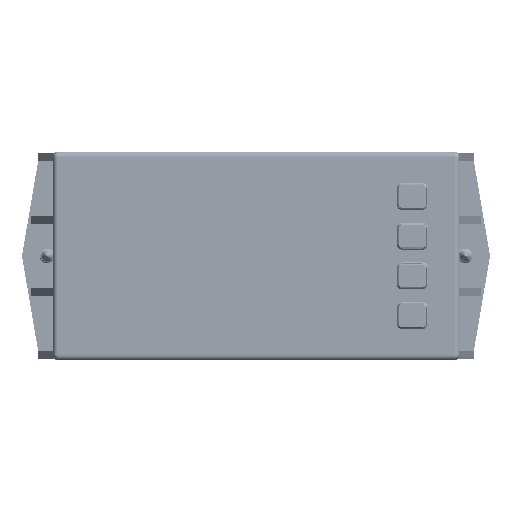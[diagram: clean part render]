
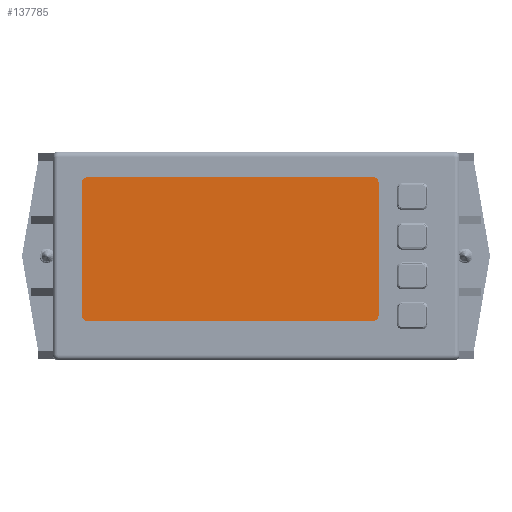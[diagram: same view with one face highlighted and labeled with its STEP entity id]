
A CAD part, front view. The second image highlights one B-rep face of the part: STEP entity #137785.
In plain terms, the highlighted planar face has unit normal (0, -1, 0) as drawn and (0, 0, 1) by its records, which use the part's own axes.
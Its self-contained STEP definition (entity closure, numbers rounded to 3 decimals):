
#4998=CIRCLE('',#145492,1.143);
#4999=CIRCLE('',#145494,1.143);
#5000=CIRCLE('',#145496,1.143);
#5001=CIRCLE('',#145498,1.143);
#32989=ORIENTED_EDGE('',*,*,#50197,.F.);
#32990=ORIENTED_EDGE('',*,*,#50183,.F.);
#32991=ORIENTED_EDGE('',*,*,#50196,.F.);
#32992=ORIENTED_EDGE('',*,*,#50192,.F.);
#32993=ORIENTED_EDGE('',*,*,#50195,.F.);
#32994=ORIENTED_EDGE('',*,*,#50189,.F.);
#32995=ORIENTED_EDGE('',*,*,#50198,.F.);
#32996=ORIENTED_EDGE('',*,*,#50186,.F.);
#50183=EDGE_CURVE('',#60987,#60988,#72860,.T.);
#50186=EDGE_CURVE('',#60989,#60990,#72863,.T.);
#50189=EDGE_CURVE('',#60991,#60992,#72866,.T.);
#50192=EDGE_CURVE('',#60993,#60994,#72869,.T.);
#50195=EDGE_CURVE('',#60992,#60993,#4998,.T.);
#50196=EDGE_CURVE('',#60994,#60987,#4999,.T.);
#50197=EDGE_CURVE('',#60988,#60989,#5000,.T.);
#50198=EDGE_CURVE('',#60990,#60991,#5001,.T.);
#60987=VERTEX_POINT('',#223853);
#60988=VERTEX_POINT('',#223854);
#60989=VERTEX_POINT('',#223859);
#60990=VERTEX_POINT('',#223860);
#60991=VERTEX_POINT('',#223865);
#60992=VERTEX_POINT('',#223866);
#60993=VERTEX_POINT('',#223871);
#60994=VERTEX_POINT('',#223872);
#72860=LINE('',#223852,#85278);
#72863=LINE('',#223858,#85281);
#72866=LINE('',#223864,#85284);
#72869=LINE('',#223870,#85287);
#85278=VECTOR('',#170664,1000.);
#85281=VECTOR('',#170669,1000.);
#85284=VECTOR('',#170674,1000.);
#85287=VECTOR('',#170679,1000.);
#92989=EDGE_LOOP('',(#32989,#32990,#32991,#32992,#32993,#32994,#32995,#32996));
#99778=FACE_BOUND('',#92989,.T.);
#104304=PLANE('',#145569);
#137785=ADVANCED_FACE('',(#99778),#104304,.F.);
#145492=AXIS2_PLACEMENT_3D('',#223876,#170684,#170685);
#145494=AXIS2_PLACEMENT_3D('',#223878,#170688,#170689);
#145496=AXIS2_PLACEMENT_3D('',#223880,#170692,#170693);
#145498=AXIS2_PLACEMENT_3D('',#223882,#170696,#170697);
#145569=AXIS2_PLACEMENT_3D('',#224077,#170910,#170911);
#170664=DIRECTION('',(-1.,0.,0.));
#170669=DIRECTION('',(0.,1.,0.));
#170674=DIRECTION('',(1.,0.,0.));
#170679=DIRECTION('',(0.,-1.,0.));
#170684=DIRECTION('',(0.,0.,-1.));
#170685=DIRECTION('',(-1.,0.,0.));
#170688=DIRECTION('',(0.,0.,-1.));
#170689=DIRECTION('',(-1.,0.,0.));
#170692=DIRECTION('',(0.,0.,-1.));
#170693=DIRECTION('',(1.,0.,0.));
#170696=DIRECTION('',(0.,0.,-1.));
#170697=DIRECTION('',(1.,0.,0.));
#170910=DIRECTION('',(0.,0.,-1.));
#170911=DIRECTION('',(-1.,0.,0.));
#223852=CARTESIAN_POINT('',(27.94,-15.367,0.737));
#223853=CARTESIAN_POINT('',(27.94,-15.367,0.737));
#223854=CARTESIAN_POINT('',(-40.132,-15.367,0.737));
#223858=CARTESIAN_POINT('',(-41.275,-14.224,0.737));
#223859=CARTESIAN_POINT('',(-41.275,-14.224,0.737));
#223860=CARTESIAN_POINT('',(-41.275,17.526,0.737));
#223864=CARTESIAN_POINT('',(-40.132,18.669,0.737));
#223865=CARTESIAN_POINT('',(-40.132,18.669,0.737));
#223866=CARTESIAN_POINT('',(27.94,18.669,0.737));
#223870=CARTESIAN_POINT('',(29.083,17.526,0.737));
#223871=CARTESIAN_POINT('',(29.083,17.526,0.737));
#223872=CARTESIAN_POINT('',(29.083,-14.224,0.737));
#223876=CARTESIAN_POINT('',(27.94,17.526,0.737));
#223878=CARTESIAN_POINT('',(27.94,-14.224,0.737));
#223880=CARTESIAN_POINT('',(-40.132,-14.224,0.737));
#223882=CARTESIAN_POINT('',(-40.132,17.526,0.737));
#224077=CARTESIAN_POINT('',(-40.132,-14.224,0.737));
